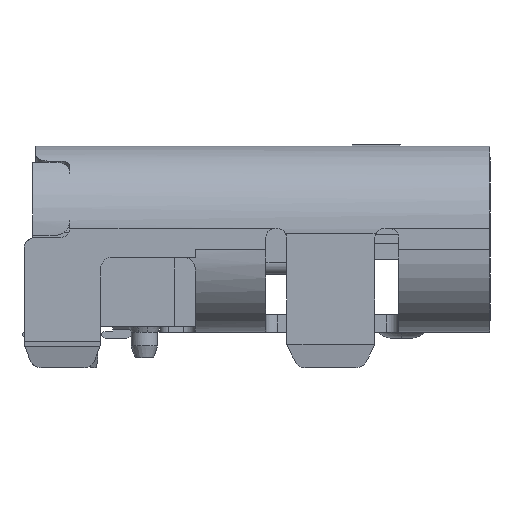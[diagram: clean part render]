
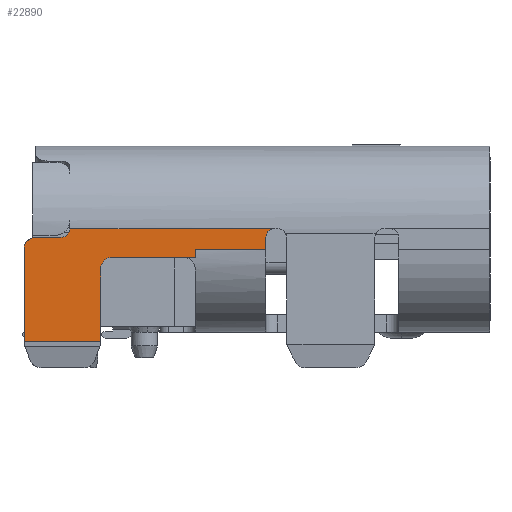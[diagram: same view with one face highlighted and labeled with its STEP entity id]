
A CAD part, front view. The second image highlights one B-rep face of the part: STEP entity #22890.
In plain terms, the highlighted planar face has unit normal (0, -1, 0).
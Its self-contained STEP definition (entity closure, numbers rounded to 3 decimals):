
#246 = LINE ( 'NONE', #17989, #18090 ) ;
#581 = DIRECTION ( 'NONE',  ( 0., 1., 0. ) ) ;
#1645 = ORIENTED_EDGE ( 'NONE', *, *, #11728, .T. ) ;
#2014 = ORIENTED_EDGE ( 'NONE', *, *, #26262, .T. ) ;
#2427 = EDGE_CURVE ( 'NONE', #23331, #36268, #30021, .T. ) ;
#2482 = DIRECTION ( 'NONE',  ( 0., 1., 0. ) ) ;
#3385 = CARTESIAN_POINT ( 'NONE',  ( 0.681, -3.708, 17.12 ) ) ;
#3561 = CARTESIAN_POINT ( 'NONE',  ( 0.681, -3.708, 17.12 ) ) ;
#4313 = CARTESIAN_POINT ( 'NONE',  ( -2.319, -3.708, 17.33 ) ) ;
#4632 = ORIENTED_EDGE ( 'NONE', *, *, #27022, .T. ) ;
#4857 = CARTESIAN_POINT ( 'NONE',  ( -2.119, -3.708, 16.795 ) ) ;
#5055 = AXIS2_PLACEMENT_3D ( 'NONE', #19202, #9953, #22350 ) ;
#5136 = VERTEX_POINT ( 'NONE', #37535 ) ;
#5317 = VERTEX_POINT ( 'NONE', #21694 ) ;
#5908 = LINE ( 'NONE', #33884, #24922 ) ;
#6003 = CARTESIAN_POINT ( 'NONE',  ( 0.681, -3.708, 17.33 ) ) ;
#6149 = EDGE_CURVE ( 'NONE', #37854, #19346, #22362, .T. ) ;
#6695 = CARTESIAN_POINT ( 'NONE',  ( -2.794, -3.708, 17.48 ) ) ;
#7374 = CARTESIAN_POINT ( 'NONE',  ( -0.519, -3.708, 17.12 ) ) ;
#7682 = EDGE_CURVE ( 'NONE', #31789, #37854, #246, .T. ) ;
#7745 = CARTESIAN_POINT ( 'NONE',  ( -2.319, -3.708, 17.48 ) ) ;
#8525 = ORIENTED_EDGE ( 'NONE', *, *, #7682, .T. ) ;
#8583 = ORIENTED_EDGE ( 'NONE', *, *, #25110, .F. ) ;
#8728 = DIRECTION ( 'NONE',  ( 0., 0., 1. ) ) ;
#9953 = DIRECTION ( 'NONE',  ( 0., -1., 0. ) ) ;
#11206 = DIRECTION ( 'NONE',  ( 0., 0., -1. ) ) ;
#11579 = CARTESIAN_POINT ( 'NONE',  ( -2.644, -3.708, 17.48 ) ) ;
#11728 = EDGE_CURVE ( 'NONE', #29338, #5317, #5908, .T. ) ;
#12035 = VERTEX_POINT ( 'NONE', #11579 ) ;
#13724 = CARTESIAN_POINT ( 'NONE',  ( -3.419, -3.708, 17.13 ) ) ;
#14295 = ORIENTED_EDGE ( 'NONE', *, *, #31266, .T. ) ;
#14309 = EDGE_CURVE ( 'NONE', #36268, #20323, #24366, .T. ) ;
#14636 = VERTEX_POINT ( 'NONE', #7374 ) ;
#15681 = ORIENTED_EDGE ( 'NONE', *, *, #20620, .F. ) ;
#15727 = VERTEX_POINT ( 'NONE', #4857 ) ;
#16684 = CARTESIAN_POINT ( 'NONE',  ( -0.519, -3.708, 17.48 ) ) ;
#16862 = DIRECTION ( 'NONE',  ( -1., 0., 0. ) ) ;
#17619 = PLANE ( 'NONE',  #36726 ) ;
#17827 = ORIENTED_EDGE ( 'NONE', *, *, #18258, .T. ) ;
#17989 = CARTESIAN_POINT ( 'NONE',  ( -3.419, -3.708, 17.48 ) ) ;
#18090 = VECTOR ( 'NONE', #23888, 1000. ) ;
#18258 = EDGE_CURVE ( 'NONE', #5136, #31789, #21999, .T. ) ;
#18382 = FACE_OUTER_BOUND ( 'NONE', #36838, .T. ) ;
#19202 = CARTESIAN_POINT ( 'NONE',  ( -3.219, -3.708, 17.13 ) ) ;
#19281 = LINE ( 'NONE', #4313, #25477 ) ;
#19346 = VERTEX_POINT ( 'NONE', #19405 ) ;
#19405 = CARTESIAN_POINT ( 'NONE',  ( -2.119, -3.708, 15.57 ) ) ;
#19586 = VECTOR ( 'NONE', #8728, 1000. ) ;
#19860 = CARTESIAN_POINT ( 'NONE',  ( -1.919, -3.708, 16.795 ) ) ;
#19887 = VECTOR ( 'NONE', #37403, 1000. ) ;
#20323 = VERTEX_POINT ( 'NONE', #23649 ) ;
#20620 = EDGE_CURVE ( 'NONE', #23331, #14636, #38376, .T. ) ;
#21146 = DIRECTION ( 'NONE',  ( 0., 0., -1. ) ) ;
#21320 = CIRCLE ( 'NONE', #37104, 0.15 ) ;
#21694 = CARTESIAN_POINT ( 'NONE',  ( -0.519, -3.708, 16.995 ) ) ;
#21999 = CIRCLE ( 'NONE', #5055, 0.2 ) ;
#22172 = DIRECTION ( 'NONE',  ( 1., 0., 0. ) ) ;
#22350 = DIRECTION ( 'NONE',  ( 0., 0., 1. ) ) ;
#22362 = LINE ( 'NONE', #31263, #26771 ) ;
#22492 = CARTESIAN_POINT ( 'NONE',  ( -2.794, -3.708, 17.33 ) ) ;
#22762 = DIRECTION ( 'NONE',  ( 0., 0., 1. ) ) ;
#22890 = ADVANCED_FACE ( 'NONE', ( #18382 ), #17619, .T. ) ;
#23331 = VERTEX_POINT ( 'NONE', #3561 ) ;
#23430 = ORIENTED_EDGE ( 'NONE', *, *, #30251, .T. ) ;
#23649 = CARTESIAN_POINT ( 'NONE',  ( 0.831, -3.708, 17.48 ) ) ;
#23888 = DIRECTION ( 'NONE',  ( 0., 0., -1. ) ) ;
#24366 = CIRCLE ( 'NONE', #32580, 0.15 ) ;
#24438 = AXIS2_PLACEMENT_3D ( 'NONE', #19860, #38239, #11206 ) ;
#24698 = CARTESIAN_POINT ( 'NONE',  ( -1.919, -3.708, 16.995 ) ) ;
#24922 = VECTOR ( 'NONE', #36661, 1000. ) ;
#25110 = EDGE_CURVE ( 'NONE', #12035, #20323, #34371, .T. ) ;
#25477 = VECTOR ( 'NONE', #38043, 1000. ) ;
#26262 = EDGE_CURVE ( 'NONE', #29486, #5136, #19281, .T. ) ;
#26771 = VECTOR ( 'NONE', #22172, 1000. ) ;
#26993 = CARTESIAN_POINT ( 'NONE',  ( -3.419, -3.708, 15.57 ) ) ;
#27022 = EDGE_CURVE ( 'NONE', #19346, #15727, #32368, .T. ) ;
#27289 = ORIENTED_EDGE ( 'NONE', *, *, #6149, .T. ) ;
#27578 = EDGE_CURVE ( 'NONE', #5317, #14636, #31870, .T. ) ;
#27970 = CARTESIAN_POINT ( 'NONE',  ( -2.319, -3.708, 17.12 ) ) ;
#27985 = VECTOR ( 'NONE', #31016, 1000. ) ;
#29309 = CARTESIAN_POINT ( 'NONE',  ( 0.831, -3.708, 17.33 ) ) ;
#29338 = VERTEX_POINT ( 'NONE', #24698 ) ;
#29486 = VERTEX_POINT ( 'NONE', #22492 ) ;
#29651 = CARTESIAN_POINT ( 'NONE',  ( -2.319, -3.708, 17.48 ) ) ;
#30021 = LINE ( 'NONE', #3385, #19586 ) ;
#30251 = EDGE_CURVE ( 'NONE', #15727, #29338, #37674, .T. ) ;
#30422 = DIRECTION ( 'NONE',  ( 0., -1., 0. ) ) ;
#31016 = DIRECTION ( 'NONE',  ( 1., 0., 0. ) ) ;
#31263 = CARTESIAN_POINT ( 'NONE',  ( -2.319, -3.708, 15.57 ) ) ;
#31266 = EDGE_CURVE ( 'NONE', #12035, #29486, #21320, .T. ) ;
#31328 = DIRECTION ( 'NONE',  ( 0., 0., 1. ) ) ;
#31735 = ORIENTED_EDGE ( 'NONE', *, *, #2427, .T. ) ;
#31789 = VERTEX_POINT ( 'NONE', #13724 ) ;
#31870 = LINE ( 'NONE', #16684, #19887 ) ;
#32368 = LINE ( 'NONE', #38493, #37481 ) ;
#32580 = AXIS2_PLACEMENT_3D ( 'NONE', #29309, #2482, #22762 ) ;
#33884 = CARTESIAN_POINT ( 'NONE',  ( -2.319, -3.708, 16.995 ) ) ;
#34371 = LINE ( 'NONE', #7745, #27985 ) ;
#34691 = VECTOR ( 'NONE', #16862, 1000. ) ;
#35531 = DIRECTION ( 'NONE',  ( 0., 0., 1. ) ) ;
#36159 = ORIENTED_EDGE ( 'NONE', *, *, #14309, .T. ) ;
#36268 = VERTEX_POINT ( 'NONE', #6003 ) ;
#36661 = DIRECTION ( 'NONE',  ( 1., 0., 0. ) ) ;
#36726 = AXIS2_PLACEMENT_3D ( 'NONE', #29651, #30422, #21146 ) ;
#36838 = EDGE_LOOP ( 'NONE', ( #17827, #8525, #27289, #4632, #23430, #1645, #36897, #15681, #31735, #36159, #8583, #14295, #2014 ) ) ;
#36897 = ORIENTED_EDGE ( 'NONE', *, *, #27578, .T. ) ;
#37104 = AXIS2_PLACEMENT_3D ( 'NONE', #6695, #581, #31328 ) ;
#37403 = DIRECTION ( 'NONE',  ( 0., 0., 1. ) ) ;
#37481 = VECTOR ( 'NONE', #35531, 1000. ) ;
#37535 = CARTESIAN_POINT ( 'NONE',  ( -3.219, -3.708, 17.33 ) ) ;
#37674 = CIRCLE ( 'NONE', #24438, 0.2 ) ;
#37854 = VERTEX_POINT ( 'NONE', #26993 ) ;
#38043 = DIRECTION ( 'NONE',  ( -1., 0., 0. ) ) ;
#38239 = DIRECTION ( 'NONE',  ( 0., 1., 0. ) ) ;
#38376 = LINE ( 'NONE', #27970, #34691 ) ;
#38493 = CARTESIAN_POINT ( 'NONE',  ( -2.119, -3.708, 17.48 ) ) ;
